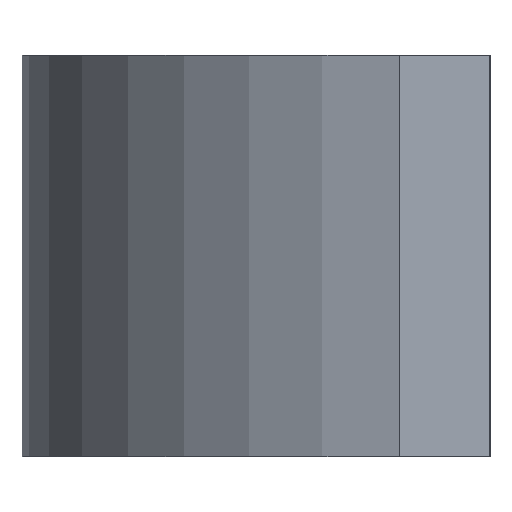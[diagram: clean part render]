
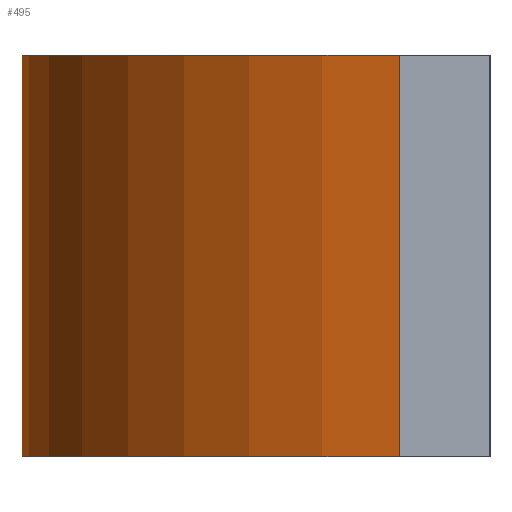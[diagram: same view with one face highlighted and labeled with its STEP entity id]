
A CAD part, left-side view. The second image highlights one B-rep face of the part: STEP entity #495.
In plain terms, the highlighted cylindrical face has radius 17.5 mm (diameter 35 mm), a partial arc.
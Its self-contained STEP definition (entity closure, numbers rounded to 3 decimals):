
#18=CYLINDRICAL_SURFACE('',#542,17.5);
#28=CIRCLE('',#530,17.5);
#32=CIRCLE('',#543,17.5);
#57=FACE_OUTER_BOUND('',#89,.T.);
#89=EDGE_LOOP('',(#437,#438,#439,#440));
#141=LINE('',#791,#199);
#147=LINE('',#805,#205);
#199=VECTOR('',#649,10.);
#205=VECTOR('',#665,10.);
#241=VERTEX_POINT('',#770);
#242=VERTEX_POINT('',#772);
#246=VERTEX_POINT('',#788);
#250=VERTEX_POINT('',#804);
#298=EDGE_CURVE('',#241,#242,#28,.T.);
#307=EDGE_CURVE('',#246,#241,#141,.T.);
#314=EDGE_CURVE('',#250,#242,#147,.T.);
#316=EDGE_CURVE('',#246,#250,#32,.T.);
#437=ORIENTED_EDGE('',*,*,#316,.T.);
#438=ORIENTED_EDGE('',*,*,#314,.T.);
#439=ORIENTED_EDGE('',*,*,#298,.F.);
#440=ORIENTED_EDGE('',*,*,#307,.F.);
#495=ADVANCED_FACE('',(#57),#18,.T.);
#530=AXIS2_PLACEMENT_3D('',#773,#629,#630);
#542=AXIS2_PLACEMENT_3D('',#807,#667,#668);
#543=AXIS2_PLACEMENT_3D('',#808,#669,#670);
#629=DIRECTION('center_axis',(0.,0.,1.));
#630=DIRECTION('ref_axis',(0.983,0.185,0.));
#649=DIRECTION('',(0.,0.,1.));
#665=DIRECTION('',(0.,0.,1.));
#667=DIRECTION('center_axis',(0.,0.,1.));
#668=DIRECTION('ref_axis',(0.983,0.185,0.));
#669=DIRECTION('center_axis',(0.,0.,1.));
#670=DIRECTION('ref_axis',(0.983,0.185,0.));
#770=CARTESIAN_POINT('',(-6.801,3.232,15.));
#772=CARTESIAN_POINT('',(-41.169,3.385,15.));
#773=CARTESIAN_POINT('Origin',(-24.,0.,15.));
#788=CARTESIAN_POINT('',(-6.801,3.232,0.));
#791=CARTESIAN_POINT('',(-6.801,3.232,0.));
#804=CARTESIAN_POINT('',(-41.169,3.385,0.));
#805=CARTESIAN_POINT('',(-41.169,3.385,0.));
#807=CARTESIAN_POINT('Origin',(-24.,0.,0.));
#808=CARTESIAN_POINT('Origin',(-24.,0.,0.));
